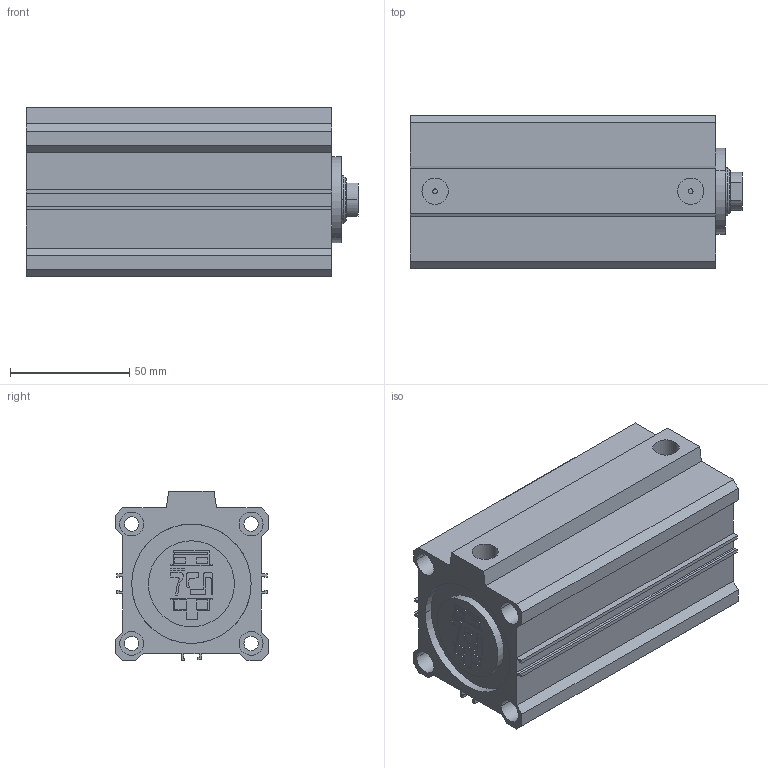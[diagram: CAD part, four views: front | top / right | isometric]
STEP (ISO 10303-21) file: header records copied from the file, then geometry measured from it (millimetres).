
FILE_DESCRIPTION(('CATIA V5 STEP Exchange'),'2;1');
FILE_NAME('D:\PDA\PDA-STP\PDA 50-20\PDA 50-20-90.stp','2016-02-02T10:50:34+00:00',('none'),('none'),'Version 5-6 Release 2012','CATIA V5 STEP AP203','none');
FILE_SCHEMA(('CONFIG_CONTROL_DESIGN'));
Length unit declared in the file: millimetre
Products named in the file (1): PDA 50-20-90-00
Assembly tree (2 placements, depth 2):
  PDA 50-20-90-00
    #58
    #6574
Bounding box: 139 x 64 x 71 mm (x, y, z)
Volume: 319252.4 mm3; surface area: 95603.3 mm2
Topology: 2 solids, 2 shells, 248 faces, 640 edges, 428 vertices
Faces by surface type: plane 172, cylinder 72, cone 2, torus 2
Entity records: 7094 total; most frequent: ORIENTED_EDGE 1280, CARTESIAN_POINT 1265, DIRECTION 966, EDGE_CURVE 640, VECTOR 482, LINE 482, VERTEX_POINT 428, AXIS2_PLACEMENT_3D 319
